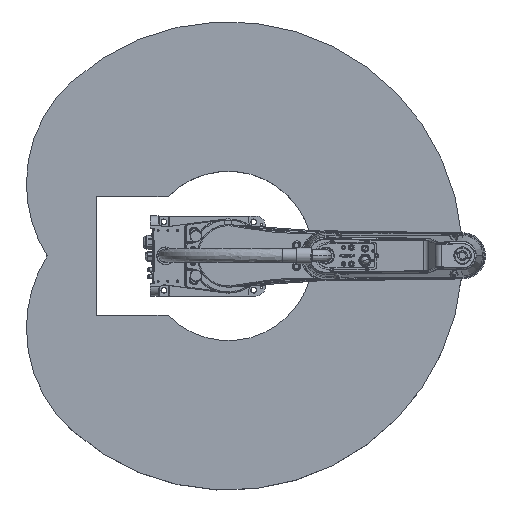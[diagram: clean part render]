
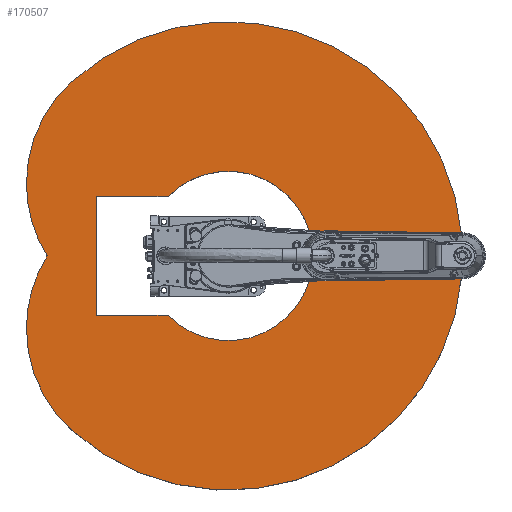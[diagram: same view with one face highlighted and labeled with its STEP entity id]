
A CAD part, top view. The second image highlights one B-rep face of the part: STEP entity #170507.
In plain terms, the highlighted planar face has unit normal (0, 0, 1) as drawn and (0, 1, 0) by its records, which use the part's own axes.
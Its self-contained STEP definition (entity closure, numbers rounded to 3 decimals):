
#10778 = CARTESIAN_POINT ( 'NONE',  ( 152.5, 188., 337.5 ) ) ;
#10890 = DIRECTION ( 'NONE',  ( 0., 1., 0. ) ) ;
#15061 = DIRECTION ( 'NONE',  ( 0., 0., 1. ) ) ;
#15682 = CARTESIAN_POINT ( 'NONE',  ( 92.893, 188., 83.641 ) ) ;
#16631 = CARTESIAN_POINT ( 'NONE',  ( 152.5, 188., 154.379 ) ) ;
#18901 = EDGE_LOOP ( 'NONE', ( #171364, #174136, #87500, #178241, #66501 ) ) ;
#22953 = CIRCLE ( 'NONE', #102581, 600. ) ;
#23168 = FACE_OUTER_BOUND ( 'NONE', #18901, .T. ) ;
#23445 = EDGE_CURVE ( 'NONE', #30955, #43488, #35237, .T. ) ;
#27065 = CIRCLE ( 'NONE', #71270, 350. ) ;
#29582 = DIRECTION ( 'NONE',  ( 0., 0., -1. ) ) ;
#29962 = EDGE_CURVE ( 'NONE', #49137, #124679, #45913, .T. ) ;
#30506 = DIRECTION ( 'NONE',  ( 0., 0., 1. ) ) ;
#30955 = VERTEX_POINT ( 'NONE', #43796 ) ;
#32154 = FACE_BOUND ( 'NONE', #75814, .T. ) ;
#35237 = LINE ( 'NONE', #10778, #154492 ) ;
#38648 = CARTESIAN_POINT ( 'NONE',  ( -185.786, 188., 517.283 ) ) ;
#39566 = CARTESIAN_POINT ( 'NONE',  ( -445.887, 188., 401.478 ) ) ;
#40877 = VERTEX_POINT ( 'NONE', #81925 ) ;
#43210 = CARTESIAN_POINT ( 'NONE',  ( -185.786, 188., 167.283 ) ) ;
#43488 = VERTEX_POINT ( 'NONE', #148864 ) ;
#43796 = CARTESIAN_POINT ( 'NONE',  ( -152.5, 188., 337.5 ) ) ;
#44569 = DIRECTION ( 'NONE',  ( 1., 0., 0. ) ) ;
#45913 = CIRCLE ( 'NONE', #133411, 350. ) ;
#46368 = ORIENTED_EDGE ( 'NONE', *, *, #23445, .F. ) ;
#47837 = EDGE_CURVE ( 'NONE', #124679, #40877, #170697, .T. ) ;
#48189 = DIRECTION ( 'NONE',  ( 0., 1., 0. ) ) ;
#48972 = CARTESIAN_POINT ( 'NONE',  ( 0., 188., 463.903 ) ) ;
#49137 = VERTEX_POINT ( 'NONE', #48972 ) ;
#53875 = VECTOR ( 'NONE', #30506, 1000. ) ;
#57661 = VERTEX_POINT ( 'NONE', #38648 ) ;
#62578 = EDGE_CURVE ( 'NONE', #57661, #49137, #121648, .T. ) ;
#63316 = DIRECTION ( 'NONE',  ( 0., 0., 1. ) ) ;
#65171 = DIRECTION ( 'NONE',  ( 0., 1., 0. ) ) ;
#65731 = VECTOR ( 'NONE', #167522, 1000. ) ;
#66501 = ORIENTED_EDGE ( 'NONE', *, *, #62578, .T. ) ;
#67258 = AXIS2_PLACEMENT_3D ( 'NONE', #151296, #48189, #136191 ) ;
#71270 = AXIS2_PLACEMENT_3D ( 'NONE', #166795, #10890, #95705 ) ;
#75207 = DIRECTION ( 'NONE',  ( 0., 1., 0. ) ) ;
#75814 = EDGE_LOOP ( 'NONE', ( #46368, #110489, #124828, #95766 ) ) ;
#78725 = VERTEX_POINT ( 'NONE', #16631 ) ;
#81925 = CARTESIAN_POINT ( 'NONE',  ( 445.887, 188., 401.478 ) ) ;
#86591 = PLANE ( 'NONE',  #185745 ) ;
#87500 = ORIENTED_EDGE ( 'NONE', *, *, #94111, .T. ) ;
#92636 = CARTESIAN_POINT ( 'NONE',  ( 185.786, 188., 517.283 ) ) ;
#94111 = EDGE_CURVE ( 'NONE', #40877, #133287, #22953, .T. ) ;
#95183 = CARTESIAN_POINT ( 'NONE',  ( 152.5, 188., 154.379 ) ) ;
#95705 = DIRECTION ( 'NONE',  ( 0., 0., 1. ) ) ;
#95766 = ORIENTED_EDGE ( 'NONE', *, *, #137863, .F. ) ;
#97159 = EDGE_CURVE ( 'NONE', #133287, #57661, #27065, .T. ) ;
#102343 = CIRCLE ( 'NONE', #116625, 217. ) ;
#102581 = AXIS2_PLACEMENT_3D ( 'NONE', #107437, #65171, #63316 ) ;
#104662 = EDGE_CURVE ( 'NONE', #129292, #30955, #148285, .T. ) ;
#107437 = CARTESIAN_POINT ( 'NONE',  ( 0., 188., 0. ) ) ;
#110489 = ORIENTED_EDGE ( 'NONE', *, *, #104662, .F. ) ;
#114473 = DIRECTION ( 'NONE',  ( 0., 1., 0. ) ) ;
#116625 = AXIS2_PLACEMENT_3D ( 'NONE', #153084, #114473, #29582 ) ;
#117878 = CARTESIAN_POINT ( 'NONE',  ( -152.5, 188., 337.5 ) ) ;
#121648 = CIRCLE ( 'NONE', #125247, 350. ) ;
#124679 = VERTEX_POINT ( 'NONE', #92636 ) ;
#124828 = ORIENTED_EDGE ( 'NONE', *, *, #148232, .F. ) ;
#125247 = AXIS2_PLACEMENT_3D ( 'NONE', #43210, #75207, #148221 ) ;
#126467 = LINE ( 'NONE', #95183, #65731 ) ;
#129292 = VERTEX_POINT ( 'NONE', #157721 ) ;
#133287 = VERTEX_POINT ( 'NONE', #39566 ) ;
#133411 = AXIS2_PLACEMENT_3D ( 'NONE', #169620, #184096, #185341 ) ;
#136191 = DIRECTION ( 'NONE',  ( 0., 0., 1. ) ) ;
#137863 = EDGE_CURVE ( 'NONE', #43488, #78725, #126467, .T. ) ;
#148221 = DIRECTION ( 'NONE',  ( 0., 0., 1. ) ) ;
#148232 = EDGE_CURVE ( 'NONE', #78725, #129292, #102343, .T. ) ;
#148285 = LINE ( 'NONE', #117878, #53875 ) ;
#148864 = CARTESIAN_POINT ( 'NONE',  ( 152.5, 188., 337.5 ) ) ;
#151296 = CARTESIAN_POINT ( 'NONE',  ( 185.786, 188., 167.283 ) ) ;
#153084 = CARTESIAN_POINT ( 'NONE',  ( 0., 188., 0. ) ) ;
#154492 = VECTOR ( 'NONE', #44569, 1000. ) ;
#157721 = CARTESIAN_POINT ( 'NONE',  ( -152.5, 188., 154.379 ) ) ;
#158997 = DIRECTION ( 'NONE',  ( 0., 1., 0. ) ) ;
#166795 = CARTESIAN_POINT ( 'NONE',  ( -185.786, 188., 167.283 ) ) ;
#167522 = DIRECTION ( 'NONE',  ( 0., 0., -1. ) ) ;
#169620 = CARTESIAN_POINT ( 'NONE',  ( 185.786, 188., 167.283 ) ) ;
#170507 = ADVANCED_FACE ( 'NONE', ( #32154, #23168 ), #86591, .T. ) ;
#170697 = CIRCLE ( 'NONE', #67258, 350. ) ;
#171364 = ORIENTED_EDGE ( 'NONE', *, *, #29962, .T. ) ;
#174136 = ORIENTED_EDGE ( 'NONE', *, *, #47837, .T. ) ;
#178241 = ORIENTED_EDGE ( 'NONE', *, *, #97159, .T. ) ;
#184096 = DIRECTION ( 'NONE',  ( 0., 1., 0. ) ) ;
#185341 = DIRECTION ( 'NONE',  ( 0., 0., 1. ) ) ;
#185745 = AXIS2_PLACEMENT_3D ( 'NONE', #15682, #158997, #15061 ) ;
